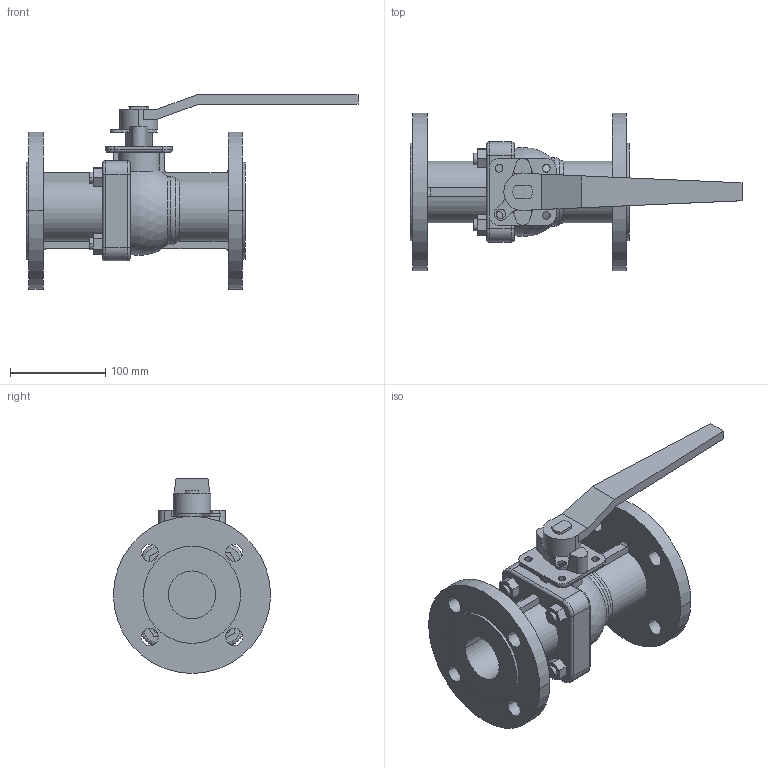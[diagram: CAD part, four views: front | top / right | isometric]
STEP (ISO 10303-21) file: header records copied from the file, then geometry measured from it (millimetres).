
FILE_DESCRIPTION( (''), '2;1');
FILE_NAME ('PC2091.16192.BLV-2SF EN PN16 50A_7044.stp','2026-05-28T09:12:43',(''),(''),'spGate 21.9.4 (****-****-****-****)','','');
FILE_SCHEMA (('AUTOMOTIVE_DESIGN'));
Length unit declared in the file: millimetre
Products named in the file (2): Assembly; BLV-2SFEN 50A
Assembly tree (1 placements, depth 2):
  Assembly
    BLV-2SFEN 50A
Bounding box: 348.3 x 165 x 204.5 mm (x, y, z)
Volume: 1469810.9 mm3; surface area: 231338.2 mm2
Topology: 1 solids, 1 shells, 217 faces, 567 edges, 367 vertices
Faces by surface type: plane 100, cylinder 100, bspline 16, sphere 1
Entity records: 11771 total; most frequent: CARTESIAN_POINT 1783, DIRECTION 1152, ORIENTED_EDGE 1134, COLOUR_RGB 785, PRESENTATION_STYLE_ASSIGNMENT 785, STYLED_ITEM 785, EDGE_CURVE 567, DRAUGHTING_PRE_DEFINED_CURVE_FONT 567
